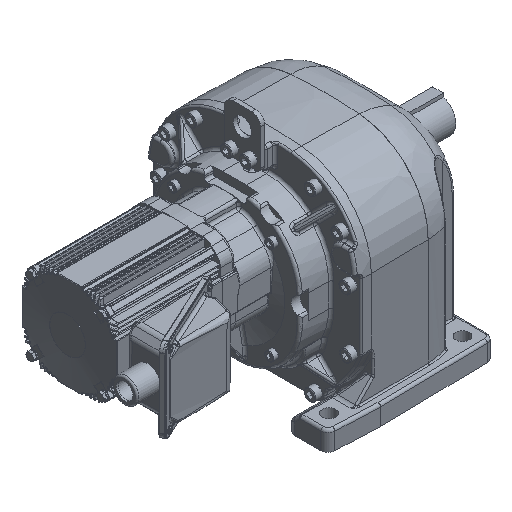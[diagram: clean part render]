
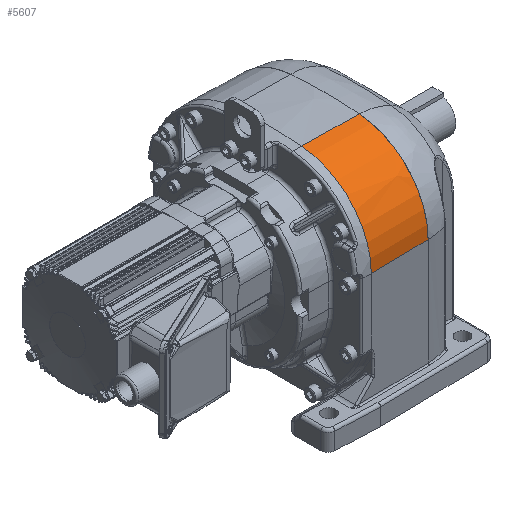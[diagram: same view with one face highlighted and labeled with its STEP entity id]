
A CAD part, isometric view. The second image highlights one B-rep face of the part: STEP entity #5607.
In plain terms, the highlighted free-form (B-spline) face has degree [2, 2] with [4, 3] control points.
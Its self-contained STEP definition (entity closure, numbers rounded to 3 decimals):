
#5607 = ADVANCED_FACE( '', ( #12615 ), #12616, .T. );
#12615 = FACE_OUTER_BOUND( '', #43853, .T. );
#12616 = ( BOUNDED_SURFACE(  )B_SPLINE_SURFACE( 2, 2, ( ( #43856, #43857, #43858 ), ( #43859, #43860, #43861 ), ( #43862, #43863, #43864 ), ( #43865, #43866, #43867 ) ), .UNSPECIFIED., .F., .F., .F. )B_SPLINE_SURFACE_WITH_KNOTS( ( 3, 1, 3 ), ( 3, 3 ), ( 0., 0.2, 1. ), ( 0., 1. ), .UNSPECIFIED. )GEOMETRIC_REPRESENTATION_ITEM(  )RATIONAL_B_SPLINE_SURFACE( ( ( 1., 0.734, 1. ), ( 1., 0.734, 1. ), ( 1., 0.734, 1. ), ( 1., 0.734, 1. ) ) )REPRESENTATION_ITEM( '' )SURFACE(  ) );
#43853 = EDGE_LOOP( '', ( #76227, #76228, #76229, #76230 ) );
#43856 = CARTESIAN_POINT( '', ( 65.03, -38.466, 82.375 ) );
#43857 = CARTESIAN_POINT( '', ( 65.03, -115.86, 76.389 ) );
#43858 = CARTESIAN_POINT( '', ( 65.03, -115.86, -1.236 ) );
#43859 = CARTESIAN_POINT( '', ( 58.527, -38.504, 82.486 ) );
#43860 = CARTESIAN_POINT( '', ( 58.527, -115.974, 76.493 ) );
#43861 = CARTESIAN_POINT( '', ( 58.527, -115.974, -1.237 ) );
#43862 = CARTESIAN_POINT( '', ( 26.012, -38.498, 83.058 ) );
#43863 = CARTESIAN_POINT( '', ( 26.012, -116.544, 77.024 ) );
#43864 = CARTESIAN_POINT( '', ( 26.012, -116.544, -1.234 ) );
#43865 = CARTESIAN_POINT( '', ( 0., -38.554, 83.511 ) );
#43866 = CARTESIAN_POINT( '', ( 0., -117., 77.444 ) );
#43867 = CARTESIAN_POINT( '', ( 0., -117., -1.236 ) );
#76227 = ORIENTED_EDGE( '', *, *, #86684, .T. );
#76228 = ORIENTED_EDGE( '', *, *, #88154, .F. );
#76229 = ORIENTED_EDGE( '', *, *, #92280, .F. );
#76230 = ORIENTED_EDGE( '', *, *, #92281, .F. );
#86684 = EDGE_CURVE( '', #95928, #95926, #95929, .T. );
#88154 = EDGE_CURVE( '', #98438, #95926, #98440, .T. );
#92280 = EDGE_CURVE( '', #102393, #98438, #104488, .T. );
#92281 = EDGE_CURVE( '', #95928, #102393, #104489, .T. );
#95926 = VERTEX_POINT( '', #110640 );
#95928 = VERTEX_POINT( '', #110642 );
#95929 = B_SPLINE_CURVE_WITH_KNOTS( '', 2, ( #110643, #110644, #110645, #110646 ), .UNSPECIFIED., .F., .F., ( 3, 1, 3 ), ( 0., 0.2, 1. ), .UNSPECIFIED. );
#98438 = VERTEX_POINT( '', #117563 );
#98440 = CIRCLE( '', #117566, 85. );
#102393 = VERTEX_POINT( '', #129253 );
#104488 = B_SPLINE_CURVE_WITH_KNOTS( '', 2, ( #137303, #137304, #137305, #137306 ), .UNSPECIFIED., .F., .F., ( 3, 1, 3 ), ( 0., 0.2, 1. ), .UNSPECIFIED. );
#104489 = CIRCLE( '', #137307, 83.86 );
#110640 = CARTESIAN_POINT( '', ( 0., -38.554, 83.511 ) );
#110642 = CARTESIAN_POINT( '', ( 65.03, -38.466, 82.375 ) );
#110643 = CARTESIAN_POINT( '', ( 65.03, -38.466, 82.375 ) );
#110644 = CARTESIAN_POINT( '', ( 58.527, -38.504, 82.486 ) );
#110645 = CARTESIAN_POINT( '', ( 26.012, -38.498, 83.058 ) );
#110646 = CARTESIAN_POINT( '', ( 0., -38.554, 83.511 ) );
#117563 = CARTESIAN_POINT( '', ( 0., -117., -1.236 ) );
#117566 = AXIS2_PLACEMENT_3D( '', #149472, #149473, #149474 );
#129253 = CARTESIAN_POINT( '', ( 65.03, -115.86, -1.236 ) );
#137303 = CARTESIAN_POINT( '', ( 65.03, -115.86, -1.236 ) );
#137304 = CARTESIAN_POINT( '', ( 58.527, -115.974, -1.237 ) );
#137305 = CARTESIAN_POINT( '', ( 26.012, -116.544, -1.234 ) );
#137306 = CARTESIAN_POINT( '', ( 0., -117., -1.236 ) );
#137307 = AXIS2_PLACEMENT_3D( '', #154843, #154844, #154845 );
#149472 = CARTESIAN_POINT( '', ( 0., -32., -1.236 ) );
#149473 = DIRECTION( '', ( -1., 0., 0. ) );
#149474 = DIRECTION( '', ( 0., 1., 0. ) );
#154843 = CARTESIAN_POINT( '', ( 65.03, -32., -1.236 ) );
#154844 = DIRECTION( '', ( 1., 0., 0. ) );
#154845 = DIRECTION( '', ( 0., -0.077, 0.997 ) );
